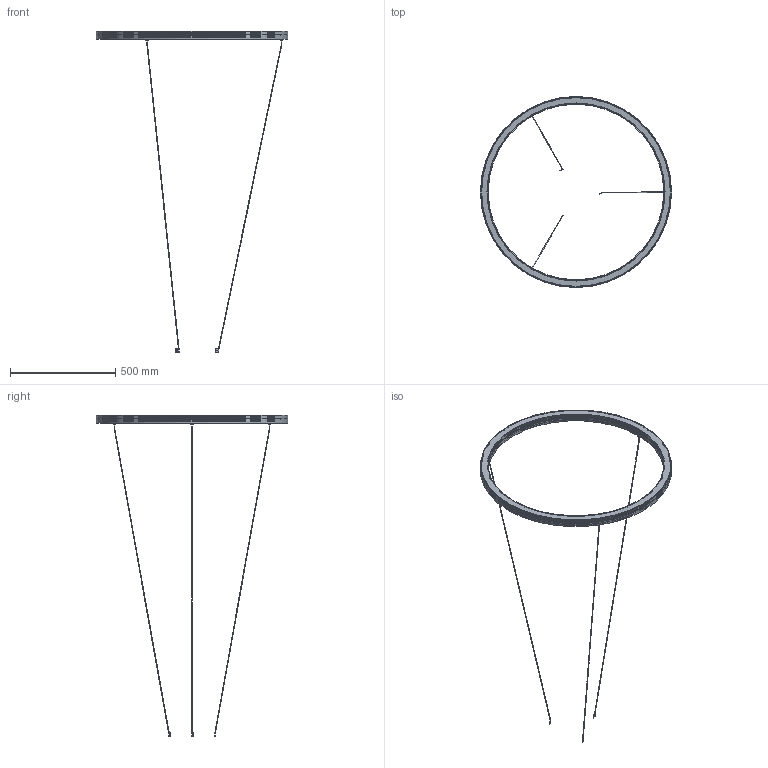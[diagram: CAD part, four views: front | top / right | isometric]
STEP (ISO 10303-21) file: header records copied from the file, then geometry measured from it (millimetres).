
FILE_DESCRIPTION(/* description */ ('Unknown'),/* implementation_level */ '2;1');
FILE_NAME(/* name */ 'Tour_PD35.9',/* time_stamp */ '2023-02-21T10:12:08-05:00',/* author */ ('Unknown'),/* organization */ ('Unknown'),/* preprocessor_version */ 'ST-DEVELOPER v18.1',/* originating_system */ 'Solid Edge',/* authorisation */ 'Unknown');
FILE_SCHEMA (('AUTOMOTIVE_DESIGN {1 0 10303 214 3 1 1}'));
Length unit declared in the file: millimetre
Products named in the file (1): Tour_PD35.9
Bounding box: 910.4 x 910.4 x 1528 mm (x, y, z)
Volume: 1331113.8 mm3; surface area: 1122531.9 mm2
Topology: 4 solids, 6 shells, 398 faces, 927 edges, 585 vertices
Faces by surface type: plane 160, cylinder 116, cone 62, torus 48, bspline 12
Full cylindrical faces by diameter (mm): 2.8 x7, 3 x3, 3.5 x1, 4.134 x3, 5 x1, 12.4 x3, 836 x2, 840 x5, 840.5 x1, 842.9 x1, 861.4 x1, 870.006 x4, 870.508 x5, 875.505 x4, 876.007 x4, 876.057 x1, 884.6 x1, 889.3 x1, 896.3 x1, 901 x1, 902.2 x3, 903.1 x1, 905.5 x1, 906 x5, 910 x2
Entity records: 13979 total; most frequent: CARTESIAN_POINT 2947, DIRECTION 1604, ORIENTED_EDGE 1454, EDGE_CURVE 727, AXIS2_PLACEMENT_3D 710, FACE_BOUND 627, EDGE_LOOP 624, VERTEX_POINT 554
